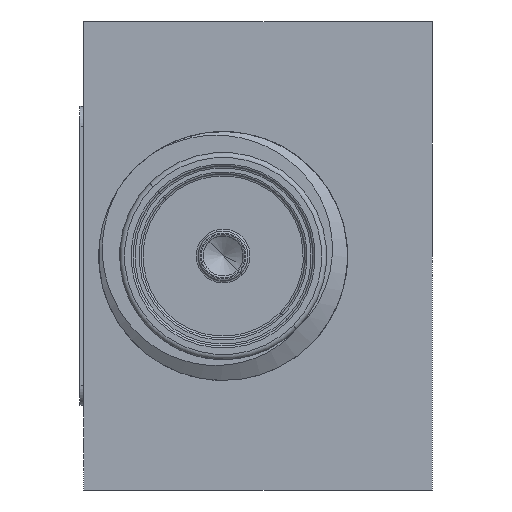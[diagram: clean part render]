
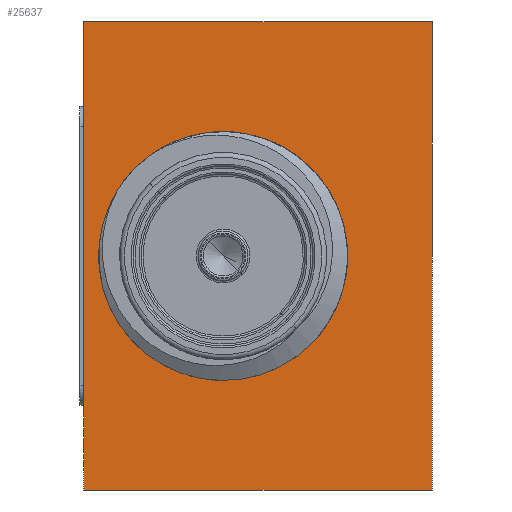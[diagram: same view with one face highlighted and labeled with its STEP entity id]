
A CAD part, left-side view. The second image highlights one B-rep face of the part: STEP entity #25637.
In plain terms, the highlighted planar face has unit normal (-1, 0, 0).
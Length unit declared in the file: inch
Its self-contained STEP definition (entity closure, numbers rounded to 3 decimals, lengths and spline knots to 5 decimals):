
#16 = CARTESIAN_POINT ( 'NONE',  ( -21.44331, 50.82891, 33.39935 ) ) ;
#1306 = VECTOR ( 'NONE', #8259, 39.37008 ) ;
#2037 = VERTEX_POINT ( 'NONE', #29578 ) ;
#6219 = EDGE_CURVE ( 'NONE', #48305, #64923, #15446, .T. ) ;
#6812 = AXIS2_PLACEMENT_3D ( 'NONE', #51380, #56633, #36600 ) ;
#8259 = DIRECTION ( 'NONE',  ( 0., 0., 1. ) ) ;
#8438 = VECTOR ( 'NONE', #60150, 39.37008 ) ;
#8600 = CARTESIAN_POINT ( 'NONE',  ( -21.44331, 50.47891, 33.86935 ) ) ;
#9794 = ORIENTED_EDGE ( 'NONE', *, *, #6219, .F. ) ;
#11247 = ORIENTED_EDGE ( 'NONE', *, *, #21443, .F. ) ;
#11989 = CARTESIAN_POINT ( 'NONE',  ( -21.44331, 50.82891, 33.86935 ) ) ;
#12288 = FACE_OUTER_BOUND ( 'NONE', #59751, .T. ) ;
#15446 = LINE ( 'NONE', #29585, #30071 ) ;
#20071 = CARTESIAN_POINT ( 'NONE',  ( -21.44331, 50.82891, 33.86935 ) ) ;
#21443 = EDGE_CURVE ( 'NONE', #2037, #48305, #39786, .T. ) ;
#25637 = ADVANCED_FACE ( 'NONE', ( #12288 ), #31350, .F. ) ;
#29578 = CARTESIAN_POINT ( 'NONE',  ( -21.44331, 50.82891, 33.39935 ) ) ;
#29585 = CARTESIAN_POINT ( 'NONE',  ( -21.44331, 50.82891, 33.86935 ) ) ;
#30071 = VECTOR ( 'NONE', #59795, 39.37008 ) ;
#31350 = PLANE ( 'NONE',  #6812 ) ;
#32928 = VECTOR ( 'NONE', #56817, 39.37008 ) ;
#34858 = LINE ( 'NONE', #16, #8438 ) ;
#36600 = DIRECTION ( 'NONE',  ( 0., 0., -1. ) ) ;
#36671 = CARTESIAN_POINT ( 'NONE',  ( -21.44331, 50.47891, 33.86935 ) ) ;
#39786 = LINE ( 'NONE', #20071, #32928 ) ;
#39909 = EDGE_CURVE ( 'NONE', #2037, #60256, #34858, .T. ) ;
#44704 = ORIENTED_EDGE ( 'NONE', *, *, #39909, .T. ) ;
#48305 = VERTEX_POINT ( 'NONE', #11989 ) ;
#49009 = LINE ( 'NONE', #8600, #1306 ) ;
#51380 = CARTESIAN_POINT ( 'NONE',  ( -21.44331, 50.82891, 33.86935 ) ) ;
#56633 = DIRECTION ( 'NONE',  ( 1., 0., 0. ) ) ;
#56817 = DIRECTION ( 'NONE',  ( 0., 0., 1. ) ) ;
#58823 = CARTESIAN_POINT ( 'NONE',  ( -21.44331, 50.47891, 33.39935 ) ) ;
#59751 = EDGE_LOOP ( 'NONE', ( #64988, #9794, #11247, #44704 ) ) ;
#59795 = DIRECTION ( 'NONE',  ( 0., -1., 0. ) ) ;
#60150 = DIRECTION ( 'NONE',  ( 0., -1., 0. ) ) ;
#60256 = VERTEX_POINT ( 'NONE', #58823 ) ;
#62174 = EDGE_CURVE ( 'NONE', #60256, #64923, #49009, .T. ) ;
#64923 = VERTEX_POINT ( 'NONE', #36671 ) ;
#64988 = ORIENTED_EDGE ( 'NONE', *, *, #62174, .T. ) ;
